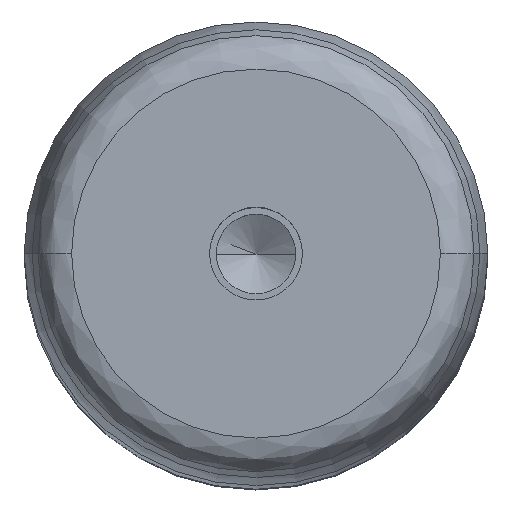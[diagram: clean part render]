
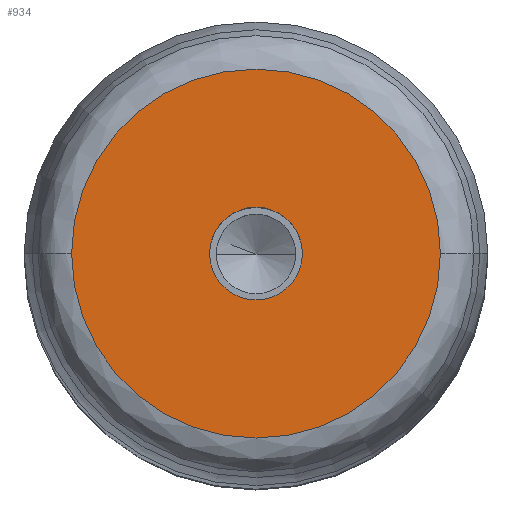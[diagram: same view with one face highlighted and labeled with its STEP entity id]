
A CAD part, top view. The second image highlights one B-rep face of the part: STEP entity #934.
In plain terms, the highlighted planar face has unit normal (0, 0, 1).
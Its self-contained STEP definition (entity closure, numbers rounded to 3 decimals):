
#149=VERTEX_POINT(' ',#150);
#150=CARTESIAN_POINT('',(23.868,0.,350.));
#151=VERTEX_POINT(' ',#152);
#152=CARTESIAN_POINT('',(-23.868,0.,350.));
#153=VERTEX_POINT(' ',#154);
#154=CARTESIAN_POINT('',(-6.,0.,350.));
#155=VERTEX_POINT(' ',#156);
#156=CARTESIAN_POINT('',(6.,0.,350.));
#469=CIRCLE('',#470,23.868);
#470=AXIS2_PLACEMENT_3D('',#471,#472,#473);
#471=CARTESIAN_POINT('',(0.,0.,350.));
#472=DIRECTION('',(0.,0.,1.));
#473=DIRECTION('',(0.,1.,0.));
#474=EDGE_CURVE(' ',#149,#151,#469,.F.);
#481=CIRCLE('',#482,23.868);
#482=AXIS2_PLACEMENT_3D('',#483,#484,#485);
#483=CARTESIAN_POINT('',(0.,0.,350.));
#484=DIRECTION('',(0.,0.,1.));
#485=DIRECTION('',(0.,-1.,0.));
#486=EDGE_CURVE(' ',#151,#149,#481,.F.);
#487=CIRCLE('',#488,6.);
#488=AXIS2_PLACEMENT_3D('',#489,#490,#491);
#489=CARTESIAN_POINT('',(0.,0.,350.));
#490=DIRECTION('',(0.,0.,-1.));
#491=DIRECTION('',(0.,-1.,0.));
#492=EDGE_CURVE(' ',#155,#153,#487,.F.);
#493=CIRCLE('',#494,6.);
#494=AXIS2_PLACEMENT_3D('',#495,#496,#497);
#495=CARTESIAN_POINT('',(0.,0.,350.));
#496=DIRECTION('',(0.,0.,-1.));
#497=DIRECTION('',(0.,1.,0.));
#498=EDGE_CURVE(' ',#153,#155,#493,.F.);
#921=ORIENTED_EDGE('',*,*,#474,.F.);
#922=ORIENTED_EDGE('',*,*,#486,.F.);
#923=EDGE_LOOP('',(#921,#922));
#924=FACE_OUTER_BOUND('',#923,.T.);
#925=ORIENTED_EDGE('',*,*,#492,.F.);
#926=ORIENTED_EDGE('',*,*,#498,.F.);
#927=EDGE_LOOP('',(#925,#926));
#928=FACE_BOUND('',#927,.T.);
#929=PLANE('',#930);
#930=AXIS2_PLACEMENT_3D('',#931,#932,#933);
#931=CARTESIAN_POINT('',(0.,0.,350.));
#932=DIRECTION('',(0.,0.,1.));
#933=DIRECTION('',(0.,-1.,0.));
#934=ADVANCED_FACE('',(#924,#928),#929,.T.);
